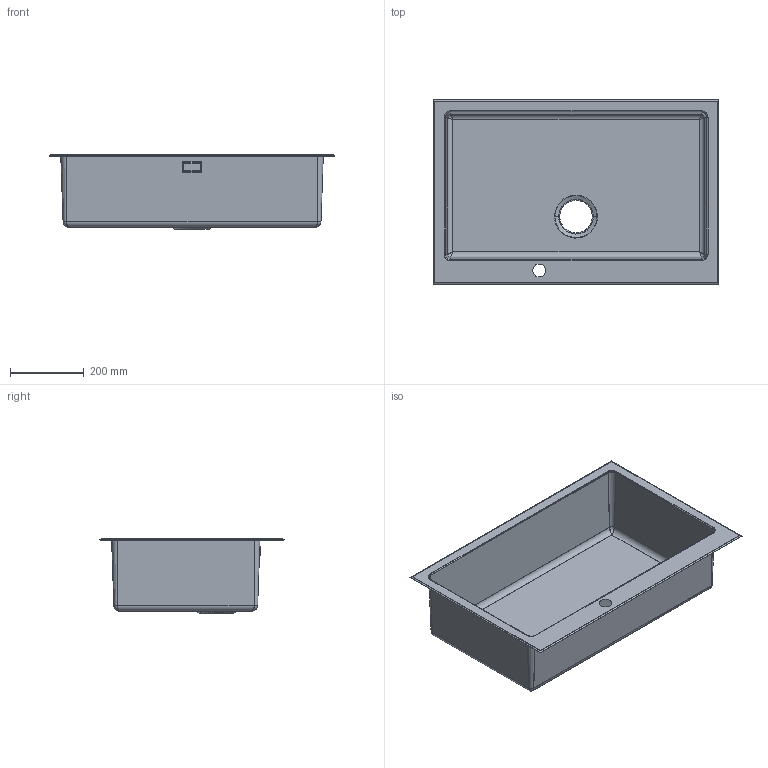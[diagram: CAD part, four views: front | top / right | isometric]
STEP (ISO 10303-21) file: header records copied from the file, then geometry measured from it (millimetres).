
FILE_DESCRIPTION(('CATIA V5 STEP Exchange'),'2;1');
FILE_NAME('\\sr02\Apell\Disegni\DISEGNI\LAVELLI\Radius\STP\4200231.stp','2017-10-17T13:35:54+00:00',('none'),('none'),'CATIA Version 5-6 Release 2014','CATIA V5 STEP AP203','none');
FILE_SCHEMA(('CONFIG_CONTROL_DESIGN'));
Length unit declared in the file: millimetre
Products named in the file (1): Part1
Bounding box: 775 x 500 x 200.9 mm (x, y, z)
Volume: 698326.9 mm3; surface area: 1554672.4 mm2
Topology: 1 solids, 1 shells, 170 faces, 384 edges, 216 vertices
Faces by surface type: plane 54, bspline 52, cylinder 48, sphere 8, torus 8
Entity records: 10743 total; most frequent: CARTESIAN_POINT 7479, ORIENTED_EDGE 760, DIRECTION 449, EDGE_CURVE 380, VERTEX_POINT 216, EDGE_LOOP 180, AXIS2_PLACEMENT_3D 170, ADVANCED_FACE 170
